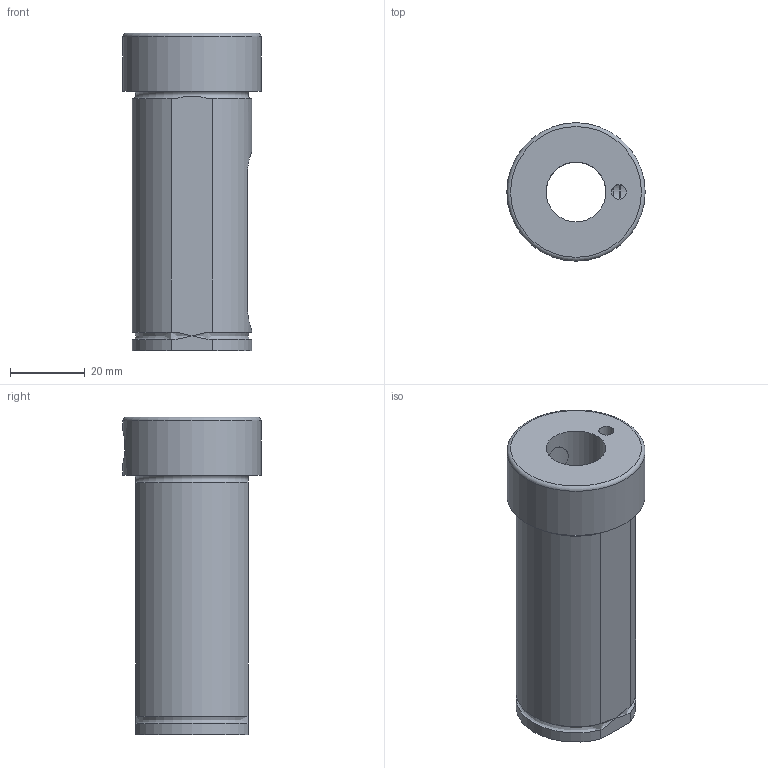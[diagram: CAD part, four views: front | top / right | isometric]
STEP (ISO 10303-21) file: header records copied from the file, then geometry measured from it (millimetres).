
FILE_DESCRIPTION(/* description */ (''),/* implementation_level */ '2;1');
FILE_NAME(/* name */ 'D32-d16-F1.stp',/* time_stamp */ '2025-12-09T09:04:24+03:00',/* author */ ('User'),/* organization */ (''),/* preprocessor_version */ 'ST-DEVELOPER v19.2',/* originating_system */ 'Autodesk Inventor 2024',/* authorisation */ '');
FILE_SCHEMA (('AUTOMOTIVE_DESIGN { 1 0 10303 214 3 1 1 }'));
Length unit declared in the file: millimetre
Products named in the file (1): Втулка переходная 
D40-d6
Bounding box: 37 x 37 x 85 mm (x, y, z)
Volume: 48592.4 mm3; surface area: 16886.8 mm2
Topology: 3 solids, 3 shells, 59 faces, 156 edges, 104 vertices
Faces by surface type: plane 32, cylinder 18, torus 5, cone 3, bspline 1
Full cylindrical faces by diameter (mm): 4 x1, 8 x3, 8.1 x1, 8.2 x1, 16 x1, 19 x1, 37 x1
Entity records: 2295 total; most frequent: CARTESIAN_POINT 759, ORIENTED_EDGE 312, DIRECTION 279, EDGE_CURVE 156, VERTEX_POINT 104, AXIS2_PLACEMENT_3D 103, LINE 73, VECTOR 73
